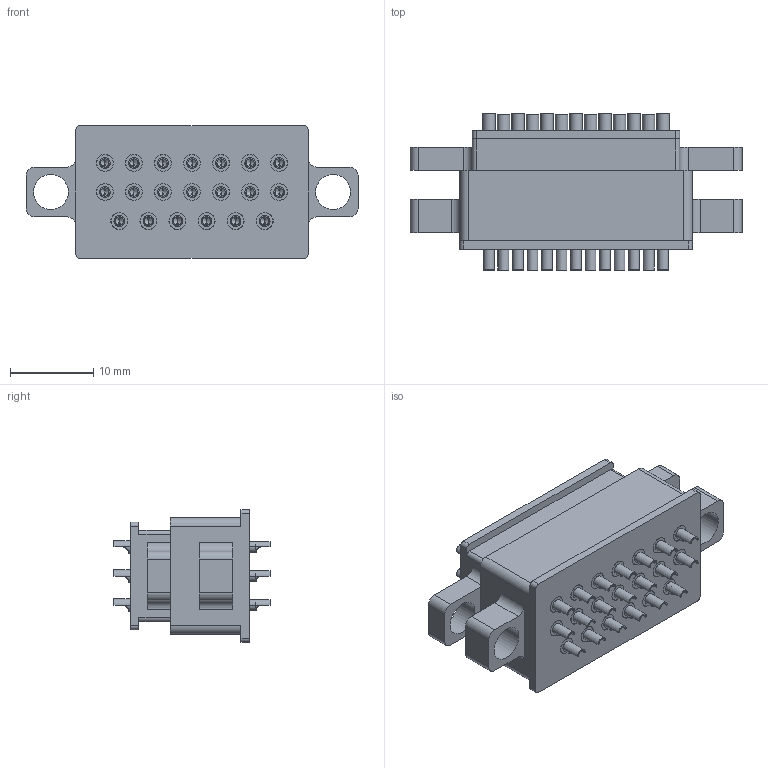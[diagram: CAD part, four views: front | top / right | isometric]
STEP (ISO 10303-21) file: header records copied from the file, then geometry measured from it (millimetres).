
FILE_DESCRIPTION((''),'2;1');
FILE_NAME('20PIN20201123_ASM','2022-05-25T10:46:22',('Alfred You'),(''),'CREO PARAMETRIC BY PTC INC, 2018050','CREO PARAMETRIC BY PTC INC, 2018050','');
FILE_SCHEMA(('CONFIG_CONTROL_DESIGN'));
Length unit declared in the file: millimetre
Products named in the file (7): FEMALEHOUSING; PIN; FEMALE_ASM; MALEHOUSING; POGOPIN; MALE_ASM; 20PIN20201123_ASM
Assembly tree (44 placements, depth 3):
  20PIN20201123_ASM
    FEMALE_ASM
      FEMALEHOUSING
      PIN  x20
    MALE_ASM
      MALEHOUSING
      POGOPIN  x20
Bounding box: 40 x 18.8 x 16 mm (x, y, z)
Volume: 5394.6 mm3; surface area: 7353.7 mm2
Topology: 42 solids, 42 shells, 1111 faces, 2612 edges, 1588 vertices
Faces by surface type: cylinder 562, plane 389, cone 80, torus 40, sphere 40
Entity records: 12202 total; most frequent: DIRECTION 2294, CARTESIAN_POINT 2117, ORIENTED_EDGE 1868, EDGE_CURVE 934, AXIS2_PLACEMENT_3D 902, VERTEX_POINT 619, EDGE_LOOP 505, VECTOR 490
